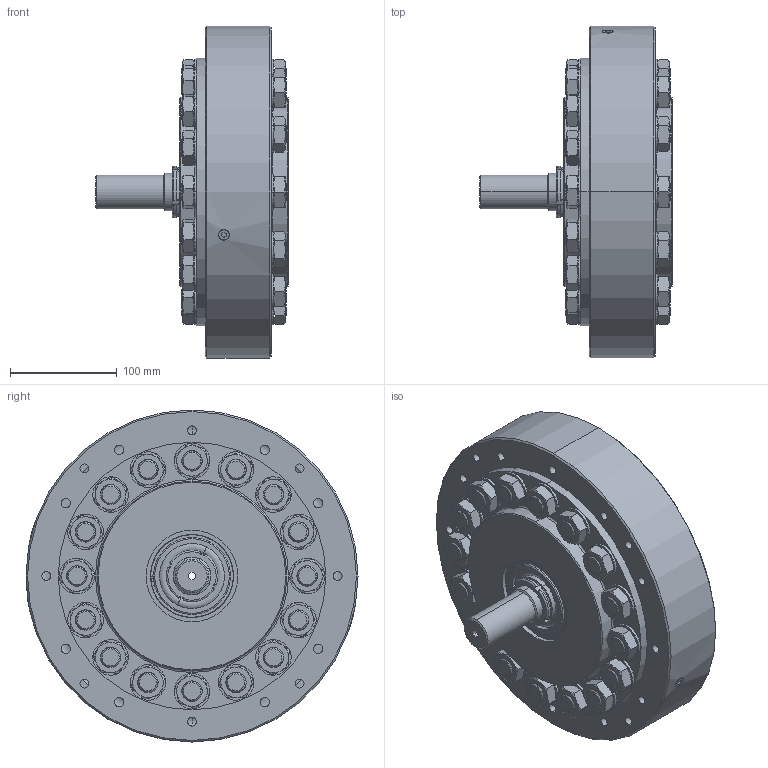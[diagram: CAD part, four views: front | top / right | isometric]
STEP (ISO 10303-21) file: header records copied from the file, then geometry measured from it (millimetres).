
FILE_DESCRIPTION (( 'STEP AP214' ), '1' );
FILE_NAME ('DM08RRRFTLS0000.STEP', '2019-10-30T16:58:18', ( '' ), ( '' ), 'SwSTEP 2.0', 'SolidWorks 2019', '' );
FILE_SCHEMA (( 'AUTOMOTIVE_DESIGN' ));
Length unit declared in the file: millimetre
Products named in the file (1): DM08RRRFTLS0000
Bounding box: 180.27 x 311.15 x 311.15 mm (x, y, z)
Surface area: 384275.8 mm2 (no closed solid volume)
Topology: 0 solids, 105 shells, 1333 faces, 3773 edges, 2501 vertices
Faces by surface type: cylinder 445, cone 404, plane 320, sphere 72, bspline 52, torus 40
Entity records: 80302 total; most frequent: CARTESIAN_POINT 34723, ORIENTED_EDGE 6179, DIRECTION 6010, EDGE_CURVE 3755, AXIS2_PLACEMENT_3D 2546, VERTEX_POINT 2501, EDGE_LOOP 1503, UNCERTAINTY_MEASURE_WITH_UNIT 1335
